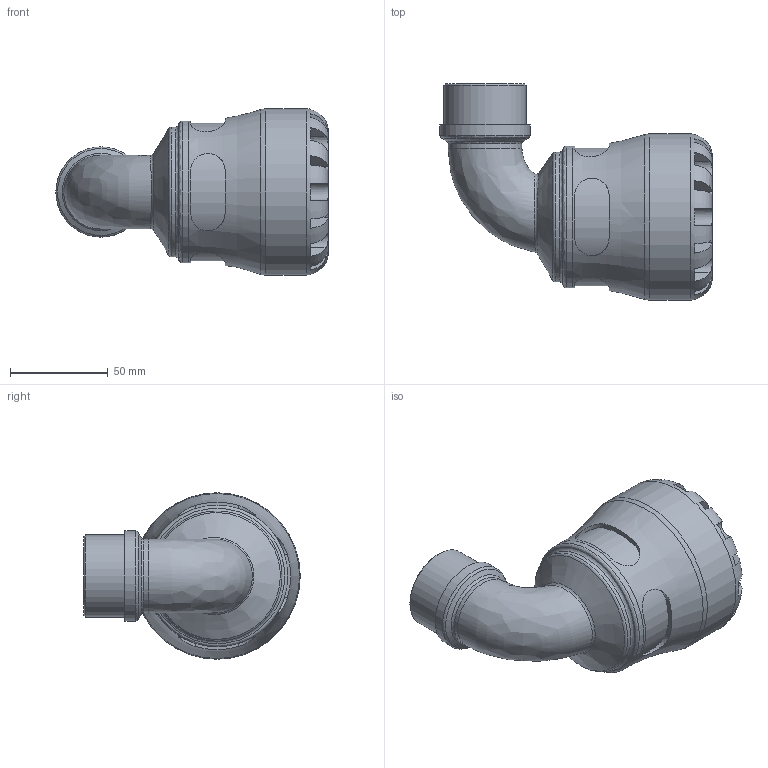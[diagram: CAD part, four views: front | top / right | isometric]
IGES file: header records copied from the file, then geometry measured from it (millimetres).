
Global section: file name: 107700050013_197700050013.ipt; native system: Autodesk Inventor 2015; preprocessor: unknown; author: KIM; date: 20180513.110419; units: millimetre
Bounding box: 139.05 x 110.5 x 85 mm (x, y, z)
Volume: 284116.3 mm3; surface area: 61701.8 mm2
Topology: 1 solids, 1 shells, 112 faces, 290 edges, 183 vertices
Faces by surface type: plane 60, revolution 28, cylinder 18, bspline 4, cone 2
Full cylindrical faces by diameter (mm): 37.719 x1, 41.91 x1, 46.101 x1, 66.3 x1, 72.25 x1, 85 x1
